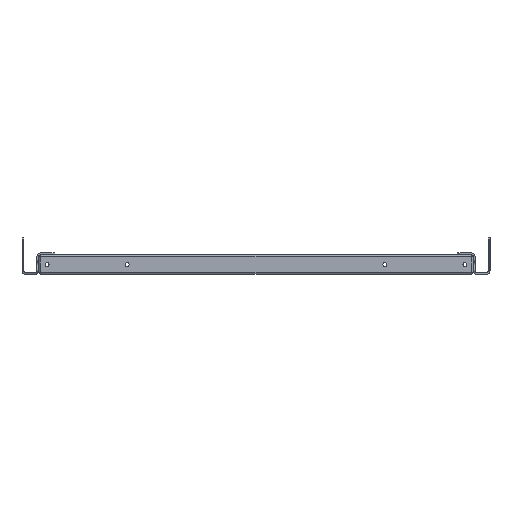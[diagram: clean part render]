
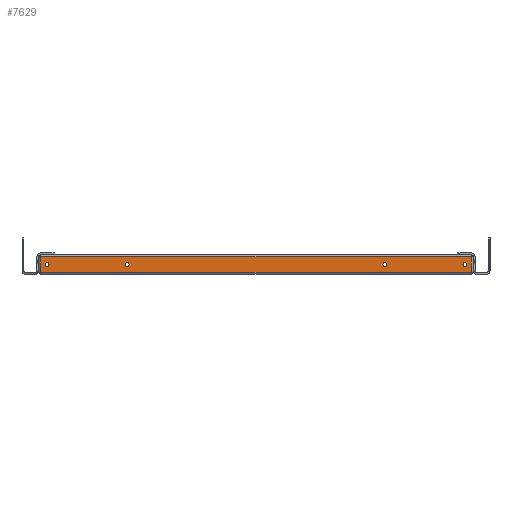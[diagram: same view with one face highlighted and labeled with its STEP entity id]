
A CAD part, left-side view. The second image highlights one B-rep face of the part: STEP entity #7629.
In plain terms, the highlighted planar face has unit normal (-1, 0, 0).
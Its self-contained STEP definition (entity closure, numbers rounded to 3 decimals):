
#94 = DIRECTION ( 'NONE',  ( -1., 0., 0. ) ) ;
#100 = EDGE_LOOP ( 'NONE', ( #9747, #6332 ) ) ;
#168 = AXIS2_PLACEMENT_3D ( 'NONE', #7031, #5142, #4087 ) ;
#198 = CARTESIAN_POINT ( 'NONE',  ( -325., 223., 20. ) ) ;
#417 = VERTEX_POINT ( 'NONE', #5309 ) ;
#463 = DIRECTION ( 'NONE',  ( 1., 0., 0. ) ) ;
#556 = DIRECTION ( 'NONE',  ( 0., 0., 1. ) ) ;
#565 = CARTESIAN_POINT ( 'NONE',  ( -325., -225., 20. ) ) ;
#599 = EDGE_CURVE ( 'NONE', #3437, #6985, #11408, .T. ) ;
#624 = CARTESIAN_POINT ( 'NONE',  ( -325., -133.5, 8. ) ) ;
#648 = FACE_BOUND ( 'NONE', #8503, .T. ) ;
#892 = EDGE_LOOP ( 'NONE', ( #6970, #8376 ) ) ;
#909 = CARTESIAN_POINT ( 'NONE',  ( -325., 223., 18. ) ) ;
#976 = DIRECTION ( 'NONE',  ( 1., 0., 0. ) ) ;
#1209 = EDGE_CURVE ( 'NONE', #5679, #4632, #10899, .T. ) ;
#1397 = ORIENTED_EDGE ( 'NONE', *, *, #3468, .T. ) ;
#1579 = DIRECTION ( 'NONE',  ( 0., 0., 1. ) ) ;
#1625 = CARTESIAN_POINT ( 'NONE',  ( -325., -133.5, 10. ) ) ;
#1779 = CIRCLE ( 'NONE', #168, 2. ) ;
#1850 = CARTESIAN_POINT ( 'NONE',  ( -325., -133.5, 10. ) ) ;
#2027 = DIRECTION ( 'NONE',  ( 0., 0., 1. ) ) ;
#2048 = AXIS2_PLACEMENT_3D ( 'NONE', #1625, #11451, #6585 ) ;
#2129 = CARTESIAN_POINT ( 'NONE',  ( -325., 223., 2. ) ) ;
#2130 = VECTOR ( 'NONE', #2387, 1000. ) ;
#2387 = DIRECTION ( 'NONE',  ( 0., 1., 0. ) ) ;
#2525 = LINE ( 'NONE', #10219, #7121 ) ;
#2570 = AXIS2_PLACEMENT_3D ( 'NONE', #3848, #94, #4325 ) ;
#2648 = VERTEX_POINT ( 'NONE', #2129 ) ;
#2850 = EDGE_CURVE ( 'NONE', #5397, #6172, #3696, .T. ) ;
#3083 = AXIS2_PLACEMENT_3D ( 'NONE', #6344, #463, #11213 ) ;
#3093 = DIRECTION ( 'NONE',  ( 0., 0., -1. ) ) ;
#3203 = ORIENTED_EDGE ( 'NONE', *, *, #4216, .F. ) ;
#3268 = FACE_OUTER_BOUND ( 'NONE', #5841, .T. ) ;
#3424 = CARTESIAN_POINT ( 'NONE',  ( -325., -216.5, 12. ) ) ;
#3437 = VERTEX_POINT ( 'NONE', #624 ) ;
#3468 = EDGE_CURVE ( 'NONE', #6657, #8010, #7928, .T. ) ;
#3504 = DIRECTION ( 'NONE',  ( 0., 0., -1. ) ) ;
#3583 = PLANE ( 'NONE',  #11660 ) ;
#3696 = CIRCLE ( 'NONE', #11469, 2. ) ;
#3848 = CARTESIAN_POINT ( 'NONE',  ( -325., 216.5, 10. ) ) ;
#3855 = EDGE_CURVE ( 'NONE', #8280, #417, #9161, .T. ) ;
#3915 = EDGE_CURVE ( 'NONE', #8010, #11503, #4736, .T. ) ;
#3932 = ORIENTED_EDGE ( 'NONE', *, *, #7057, .T. ) ;
#4087 = DIRECTION ( 'NONE',  ( 0., 0., 1. ) ) ;
#4184 = CARTESIAN_POINT ( 'NONE',  ( -325., 216.5, 12. ) ) ;
#4216 = EDGE_CURVE ( 'NONE', #4632, #5679, #11149, .T. ) ;
#4325 = DIRECTION ( 'NONE',  ( 0., 0., 1. ) ) ;
#4368 = ORIENTED_EDGE ( 'NONE', *, *, #1209, .F. ) ;
#4448 = AXIS2_PLACEMENT_3D ( 'NONE', #12045, #7187, #5038 ) ;
#4632 = VERTEX_POINT ( 'NONE', #8094 ) ;
#4736 = LINE ( 'NONE', #8073, #2130 ) ;
#4738 = AXIS2_PLACEMENT_3D ( 'NONE', #1850, #976, #5778 ) ;
#4850 = DIRECTION ( 'NONE',  ( -1., 0., 0. ) ) ;
#5038 = DIRECTION ( 'NONE',  ( 0., 0., 1. ) ) ;
#5100 = FACE_BOUND ( 'NONE', #100, .T. ) ;
#5142 = DIRECTION ( 'NONE',  ( -1., 0., 0. ) ) ;
#5239 = AXIS2_PLACEMENT_3D ( 'NONE', #6860, #4850, #2027 ) ;
#5309 = CARTESIAN_POINT ( 'NONE',  ( -325., 133.5, 8. ) ) ;
#5397 = VERTEX_POINT ( 'NONE', #3424 ) ;
#5437 = DIRECTION ( 'NONE',  ( 0., -1., 0. ) ) ;
#5679 = VERTEX_POINT ( 'NONE', #4184 ) ;
#5778 = DIRECTION ( 'NONE',  ( 0., 0., 1. ) ) ;
#5841 = EDGE_LOOP ( 'NONE', ( #1397, #8760, #12168, #3932 ) ) ;
#5851 = FACE_BOUND ( 'NONE', #9964, .T. ) ;
#6172 = VERTEX_POINT ( 'NONE', #11561 ) ;
#6332 = ORIENTED_EDGE ( 'NONE', *, *, #6340, .F. ) ;
#6340 = EDGE_CURVE ( 'NONE', #417, #8280, #1779, .T. ) ;
#6344 = CARTESIAN_POINT ( 'NONE',  ( -325., -216.5, 10. ) ) ;
#6374 = EDGE_CURVE ( 'NONE', #11503, #2648, #12007, .T. ) ;
#6466 = CARTESIAN_POINT ( 'NONE',  ( -325., -216.5, 10. ) ) ;
#6585 = DIRECTION ( 'NONE',  ( 0., 0., 1. ) ) ;
#6657 = VERTEX_POINT ( 'NONE', #7625 ) ;
#6860 = CARTESIAN_POINT ( 'NONE',  ( -325., 216.5, 10. ) ) ;
#6970 = ORIENTED_EDGE ( 'NONE', *, *, #9346, .T. ) ;
#6985 = VERTEX_POINT ( 'NONE', #10179 ) ;
#7031 = CARTESIAN_POINT ( 'NONE',  ( -325., 133.5, 10. ) ) ;
#7057 = EDGE_CURVE ( 'NONE', #2648, #6657, #2525, .T. ) ;
#7121 = VECTOR ( 'NONE', #5437, 1000. ) ;
#7187 = DIRECTION ( 'NONE',  ( -1., 0., 0. ) ) ;
#7455 = CARTESIAN_POINT ( 'NONE',  ( -325., -223., 20. ) ) ;
#7509 = EDGE_CURVE ( 'NONE', #6172, #5397, #8327, .T. ) ;
#7625 = CARTESIAN_POINT ( 'NONE',  ( -325., -223., 2. ) ) ;
#7629 = ADVANCED_FACE ( 'NONE', ( #5100, #5851, #3268, #648, #9995 ), #3583, .F. ) ;
#7928 = LINE ( 'NONE', #7455, #10398 ) ;
#8010 = VERTEX_POINT ( 'NONE', #9769 ) ;
#8073 = CARTESIAN_POINT ( 'NONE',  ( -325., 225., 18. ) ) ;
#8094 = CARTESIAN_POINT ( 'NONE',  ( -325., 216.5, 8. ) ) ;
#8280 = VERTEX_POINT ( 'NONE', #10140 ) ;
#8327 = CIRCLE ( 'NONE', #3083, 2. ) ;
#8376 = ORIENTED_EDGE ( 'NONE', *, *, #599, .T. ) ;
#8503 = EDGE_LOOP ( 'NONE', ( #10602, #9547 ) ) ;
#8760 = ORIENTED_EDGE ( 'NONE', *, *, #3915, .T. ) ;
#9161 = CIRCLE ( 'NONE', #4448, 2. ) ;
#9346 = EDGE_CURVE ( 'NONE', #6985, #3437, #9622, .T. ) ;
#9388 = DIRECTION ( 'NONE',  ( 1., 0., 0. ) ) ;
#9547 = ORIENTED_EDGE ( 'NONE', *, *, #7509, .T. ) ;
#9622 = CIRCLE ( 'NONE', #4738, 2. ) ;
#9747 = ORIENTED_EDGE ( 'NONE', *, *, #3855, .F. ) ;
#9769 = CARTESIAN_POINT ( 'NONE',  ( -325., -223., 18. ) ) ;
#9964 = EDGE_LOOP ( 'NONE', ( #4368, #3203 ) ) ;
#9995 = FACE_BOUND ( 'NONE', #892, .T. ) ;
#10140 = CARTESIAN_POINT ( 'NONE',  ( -325., 133.5, 12. ) ) ;
#10179 = CARTESIAN_POINT ( 'NONE',  ( -325., -133.5, 12. ) ) ;
#10219 = CARTESIAN_POINT ( 'NONE',  ( -325., -225., 2. ) ) ;
#10398 = VECTOR ( 'NONE', #1579, 1000. ) ;
#10602 = ORIENTED_EDGE ( 'NONE', *, *, #2850, .T. ) ;
#10899 = CIRCLE ( 'NONE', #5239, 2. ) ;
#11149 = CIRCLE ( 'NONE', #2570, 2. ) ;
#11208 = DIRECTION ( 'NONE',  ( 1., 0., 0. ) ) ;
#11213 = DIRECTION ( 'NONE',  ( 0., 0., 1. ) ) ;
#11408 = CIRCLE ( 'NONE', #2048, 2. ) ;
#11451 = DIRECTION ( 'NONE',  ( 1., 0., 0. ) ) ;
#11469 = AXIS2_PLACEMENT_3D ( 'NONE', #6466, #11208, #556 ) ;
#11503 = VERTEX_POINT ( 'NONE', #909 ) ;
#11555 = VECTOR ( 'NONE', #3093, 1000. ) ;
#11561 = CARTESIAN_POINT ( 'NONE',  ( -325., -216.5, 8. ) ) ;
#11660 = AXIS2_PLACEMENT_3D ( 'NONE', #565, #9388, #3504 ) ;
#12007 = LINE ( 'NONE', #198, #11555 ) ;
#12045 = CARTESIAN_POINT ( 'NONE',  ( -325., 133.5, 10. ) ) ;
#12168 = ORIENTED_EDGE ( 'NONE', *, *, #6374, .T. ) ;
